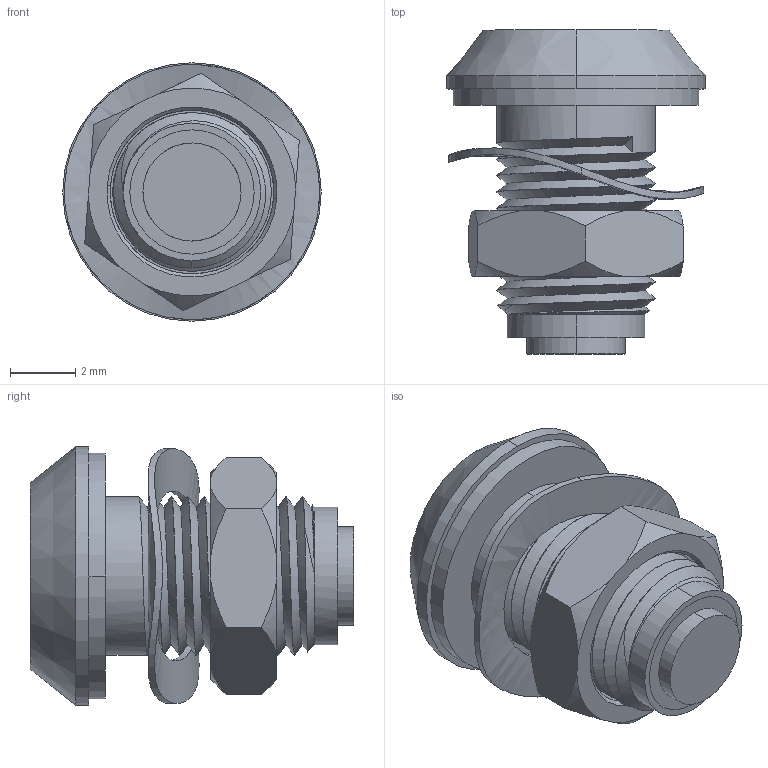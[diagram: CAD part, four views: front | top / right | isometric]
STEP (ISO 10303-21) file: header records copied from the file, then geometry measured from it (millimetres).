
FILE_DESCRIPTION (( 'STEP AP214' ), '1' );
FILE_NAME ('602-000-00-50.STEP', '2022-01-11T08:43:14', ( '' ), ( '' ), 'SwSTEP 2.0', 'SolidWorks 2021', '' );
FILE_SCHEMA (( 'AUTOMOTIVE_DESIGN' ));
Length unit declared in the file: millimetre
Products named in the file (8): COM3575 - COM3579_COM3579; COM10992; COM4316_1mm shorter; HeatShrink_-50; 5mm wavy washer; PLP2-1000_-50; COM2421; 602-000-00-50
Assembly tree (7 placements, depth 2):
  602-000-00-50
    COM10992
    5mm wavy washer
    COM2421
    PLP2-1000_-50
    COM3575 - COM3579_COM3579
    COM4316_1mm shorter
    HeatShrink_-50
Bounding box: 7.9 x 9.9 x 7.9 mm (x, y, z)
Volume: 203.9 mm3; surface area: 798.5 mm2
Topology: 7 solids, 7 shells, 171 faces, 378 edges, 238 vertices
Faces by surface type: cylinder 75, plane 35, torus 32, cone 25, bspline 4
Entity records: 6602 total; most frequent: CARTESIAN_POINT 2532, DIRECTION 839, ORIENTED_EDGE 754, EDGE_CURVE 377, AXIS2_PLACEMENT_3D 367, VERTEX_POINT 236, EDGE_LOOP 197, CIRCLE 190
